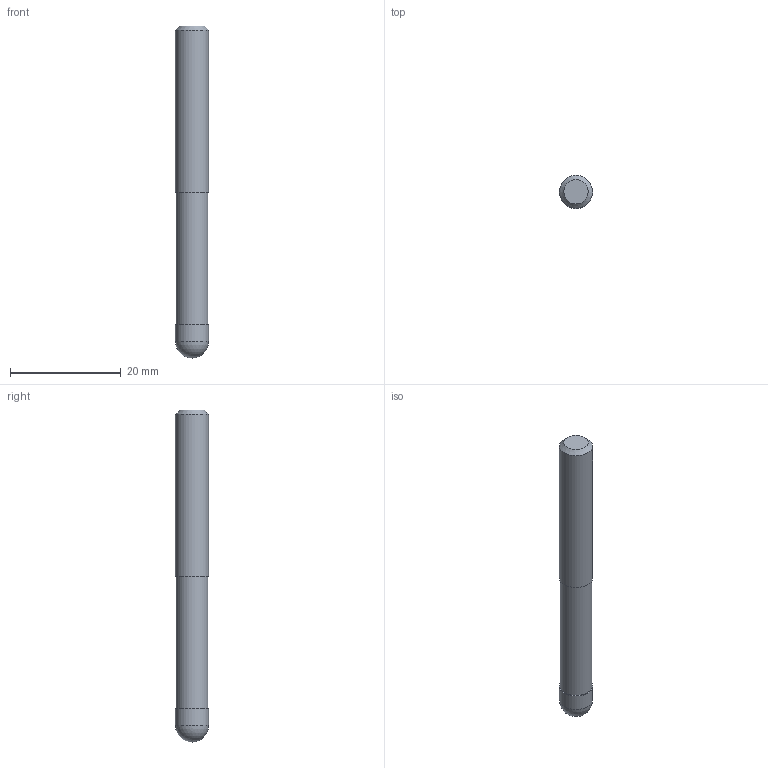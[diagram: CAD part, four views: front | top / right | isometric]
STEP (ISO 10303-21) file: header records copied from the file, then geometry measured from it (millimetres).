
FILE_DESCRIPTION((''),'2;1');
FILE_NAME('C:\Users\nsx150\AppData\Local\Temp\Mastercam 2021\QT8KEW0Y7J\TEMP.step','2021-04-23T11:22:13',(''),(''),'STEP Write','Mastercam 2021 ... CNC Software, Inc.','');
FILE_SCHEMA(('AUTOMOTIVE_DESIGN'));
Length unit declared in the file: millimetre
Products named in the file (1): None
Bounding box: 6 x 6 x 60 mm (x, y, z)
Volume: 1596.5 mm3; surface area: 1183.5 mm2
Topology: 2 solids, 2 shells, 9 faces, 13 edges, 8 vertices
Faces by surface type: plane 4, cylinder 3, sphere 1, cone 1
Full cylindrical faces by diameter (mm): 5.7 x1, 6 x2
Entity records: 211 total; most frequent: DIRECTION 36, CARTESIAN_POINT 25, AXIS2_PLACEMENT_3D 18, ORIENTED_EDGE 14, EDGE_LOOP 14, STYLED_ITEM 12, ADVANCED_FACE 9, FACE_BOUND 8
